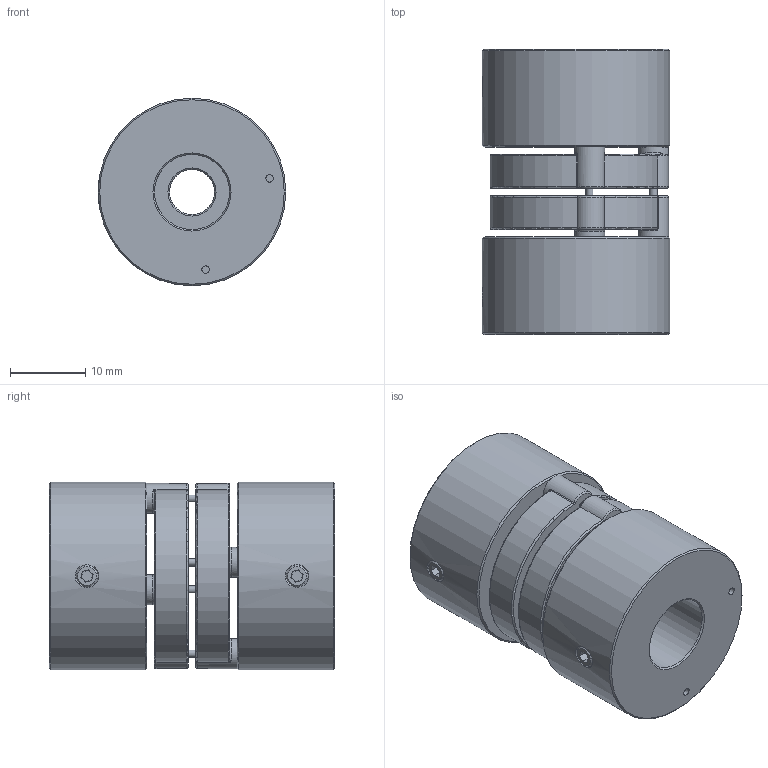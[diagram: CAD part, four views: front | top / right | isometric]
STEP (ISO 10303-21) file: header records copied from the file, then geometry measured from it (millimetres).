
FILE_DESCRIPTION (( 'STEP AP214' ), '1' );
FILE_NAME ('9406_10_06.STEP', '2021-05-03T08:23:55', ( '' ), ( '' ), 'SwSTEP 2.0', 'SolidWorks 2019', '' );
FILE_SCHEMA (( 'AUTOMOTIVE_DESIGN' ));
Length unit declared in the file: millimetre
Products named in the file (5): GIU.9406.M6; 9406_10_06; GIU.9406.E; GIU.9406.M10; GIU.9406_Grano
Assembly tree (5 placements, depth 2):
  9406_10_06
    GIU.9406.E
    GIU.9406.M6
    GIU.9406.M10
    GIU.9406_Grano  x2
Bounding box: 25 x 38 x 25 mm (x, y, z)
Volume: 14172.1 mm3; surface area: 7267.8 mm2
Topology: 10 solids, 10 shells, 167 faces, 359 edges, 218 vertices
Faces by surface type: torus 53, cylinder 50, plane 42, cone 14, bspline 8
Full cylindrical faces by diameter (mm): 1 x16, 2.5 x2, 3 x2, 4 x4, 6 x1, 10 x1, 12 x2, 25 x2
Entity records: 4661 total; most frequent: CARTESIAN_POINT 1105, DIRECTION 726, ORIENTED_EDGE 530, AXIS2_PLACEMENT_3D 342, EDGE_CURVE 265, EDGE_LOOP 242, FACE_OUTER_BOUND 197, VERTEX_POINT 187
